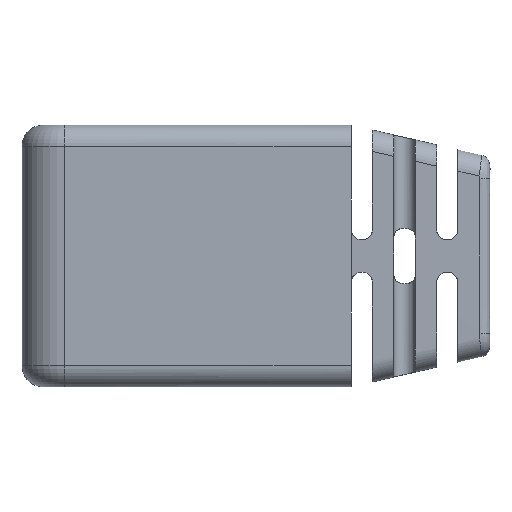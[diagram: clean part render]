
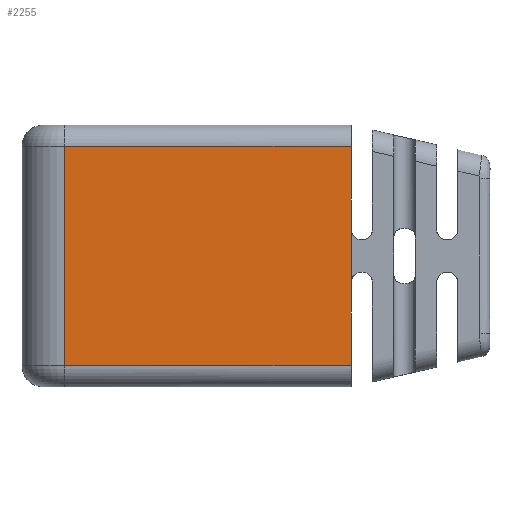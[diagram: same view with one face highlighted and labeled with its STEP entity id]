
A CAD part, front view. The second image highlights one B-rep face of the part: STEP entity #2255.
In plain terms, the highlighted planar face has unit normal (0, -1, 0).
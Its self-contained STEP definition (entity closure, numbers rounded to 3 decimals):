
#4 = LINE ( 'NONE', #2049, #3715 ) ;
#5 = CARTESIAN_POINT ( 'NONE',  ( 12.2, -4., 5.125 ) ) ;
#106 = VECTOR ( 'NONE', #2342, 1000. ) ;
#107 = ORIENTED_EDGE ( 'NONE', *, *, #178, .F. ) ;
#159 = VERTEX_POINT ( 'NONE', #757 ) ;
#171 = ORIENTED_EDGE ( 'NONE', *, *, #3948, .T. ) ;
#176 = CARTESIAN_POINT ( 'NONE',  ( -1.2, -4., 5.125 ) ) ;
#178 = EDGE_CURVE ( 'NONE', #2425, #159, #3914, .T. ) ;
#307 = CARTESIAN_POINT ( 'NONE',  ( 12.2, -4., -1.25 ) ) ;
#385 = CARTESIAN_POINT ( 'NONE',  ( -1.2, -4., 5.125 ) ) ;
#482 = VERTEX_POINT ( 'NONE', #1165 ) ;
#559 = VECTOR ( 'NONE', #883, 1000. ) ;
#679 = PLANE ( 'NONE',  #2346 ) ;
#708 = LINE ( 'NONE', #385, #1088 ) ;
#757 = CARTESIAN_POINT ( 'NONE',  ( 12.2, -4., -5.125 ) ) ;
#839 = DIRECTION ( 'NONE',  ( 0., 0., -1. ) ) ;
#883 = DIRECTION ( 'NONE',  ( 1., 0., 0. ) ) ;
#1042 = LINE ( 'NONE', #1336, #106 ) ;
#1085 = DIRECTION ( 'NONE',  ( 0., 1., 0. ) ) ;
#1088 = VECTOR ( 'NONE', #3830, 1000. ) ;
#1092 = DIRECTION ( 'NONE',  ( 0., 0., -1. ) ) ;
#1165 = CARTESIAN_POINT ( 'NONE',  ( 12.2, -4., 1.25 ) ) ;
#1177 = ORIENTED_EDGE ( 'NONE', *, *, #3421, .F. ) ;
#1336 = CARTESIAN_POINT ( 'NONE',  ( 12.2, -4., 6.125 ) ) ;
#1545 = CARTESIAN_POINT ( 'NONE',  ( 12.2, -4., 6.125 ) ) ;
#1705 = ORIENTED_EDGE ( 'NONE', *, *, #3339, .F. ) ;
#1778 = FACE_OUTER_BOUND ( 'NONE', #3205, .T. ) ;
#1840 = ORIENTED_EDGE ( 'NONE', *, *, #1996, .T. ) ;
#1892 = CARTESIAN_POINT ( 'NONE',  ( -1.2, -4., -5.125 ) ) ;
#1996 = EDGE_CURVE ( 'NONE', #3763, #4431, #2443, .T. ) ;
#2049 = CARTESIAN_POINT ( 'NONE',  ( 12.2, -4., 6.125 ) ) ;
#2135 = EDGE_CURVE ( 'NONE', #4370, #3763, #708, .T. ) ;
#2255 = ADVANCED_FACE ( 'NONE', ( #1778 ), #679, .F. ) ;
#2342 = DIRECTION ( 'NONE',  ( 0., 0., -1. ) ) ;
#2346 = AXIS2_PLACEMENT_3D ( 'NONE', #3125, #1085, #3802 ) ;
#2425 = VERTEX_POINT ( 'NONE', #307 ) ;
#2443 = LINE ( 'NONE', #3832, #2676 ) ;
#2676 = VECTOR ( 'NONE', #1092, 1000. ) ;
#2910 = VECTOR ( 'NONE', #839, 1000. ) ;
#2998 = CARTESIAN_POINT ( 'NONE',  ( -1.2, -4., -5.125 ) ) ;
#3033 = DIRECTION ( 'NONE',  ( 0., 0., -1. ) ) ;
#3125 = CARTESIAN_POINT ( 'NONE',  ( -1.2, -4., 6.125 ) ) ;
#3205 = EDGE_LOOP ( 'NONE', ( #1705, #3945, #1840, #171, #107, #1177 ) ) ;
#3307 = LINE ( 'NONE', #1892, #559 ) ;
#3339 = EDGE_CURVE ( 'NONE', #4370, #482, #4, .T. ) ;
#3421 = EDGE_CURVE ( 'NONE', #482, #2425, #1042, .T. ) ;
#3715 = VECTOR ( 'NONE', #3033, 1000. ) ;
#3763 = VERTEX_POINT ( 'NONE', #176 ) ;
#3802 = DIRECTION ( 'NONE',  ( 0., 0., 1. ) ) ;
#3830 = DIRECTION ( 'NONE',  ( -1., 0., 0. ) ) ;
#3832 = CARTESIAN_POINT ( 'NONE',  ( -1.2, -4., 6.125 ) ) ;
#3914 = LINE ( 'NONE', #1545, #2910 ) ;
#3945 = ORIENTED_EDGE ( 'NONE', *, *, #2135, .T. ) ;
#3948 = EDGE_CURVE ( 'NONE', #4431, #159, #3307, .T. ) ;
#4370 = VERTEX_POINT ( 'NONE', #5 ) ;
#4431 = VERTEX_POINT ( 'NONE', #2998 ) ;
